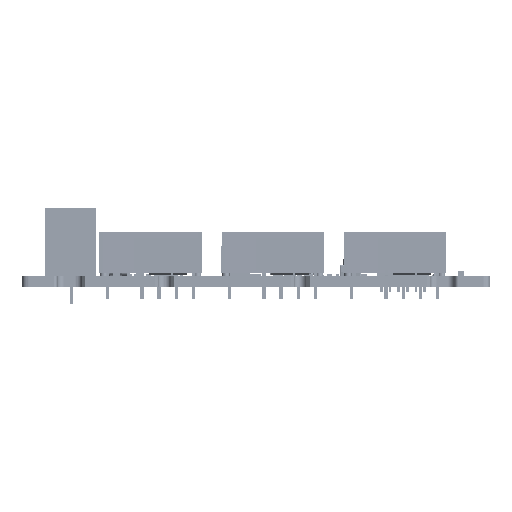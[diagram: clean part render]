
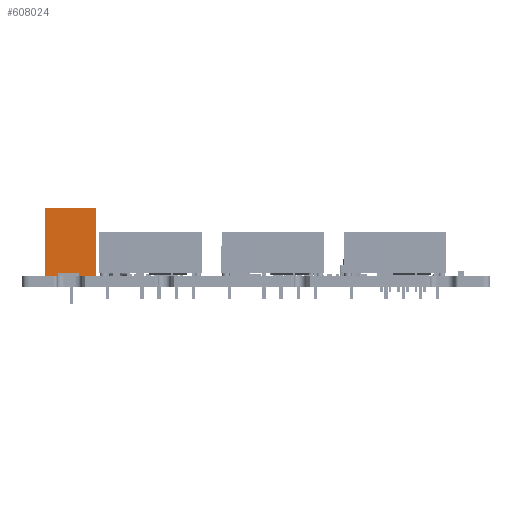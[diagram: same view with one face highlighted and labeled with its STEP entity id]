
A CAD part, left-side view. The second image highlights one B-rep face of the part: STEP entity #608024.
In plain terms, the highlighted planar face has unit normal (-1, 0, 0).
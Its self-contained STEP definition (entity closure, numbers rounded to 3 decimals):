
#608024 = ADVANCED_FACE('',(#608025),#608059,.F.);
#608025 = FACE_BOUND('',#608026,.T.);
#608026 = EDGE_LOOP('',(#608027,#608037,#608045,#608053));
#608027 = ORIENTED_EDGE('',*,*,#608028,.T.);
#608028 = EDGE_CURVE('',#608029,#608031,#608033,.T.);
#608029 = VERTEX_POINT('',#608030);
#608030 = CARTESIAN_POINT('',(67.06,65.59,
    0.));
#608031 = VERTEX_POINT('',#608032);
#608032 = CARTESIAN_POINT('',(67.06,58.09,
    0.));
#608033 = LINE('',#608034,#608035);
#608034 = CARTESIAN_POINT('',(67.06,65.59,
    0.));
#608035 = VECTOR('',#608036,1.);
#608036 = DIRECTION('',(0.,-1.,0.));
#608037 = ORIENTED_EDGE('',*,*,#608038,.F.);
#608038 = EDGE_CURVE('',#608039,#608031,#608041,.T.);
#608039 = VERTEX_POINT('',#608040);
#608040 = CARTESIAN_POINT('',(67.06,58.09,
    10.1));
#608041 = LINE('',#608042,#608043);
#608042 = CARTESIAN_POINT('',(67.06,58.09,
    10.1));
#608043 = VECTOR('',#608044,1.);
#608044 = DIRECTION('',(0.,0.,-1.));
#608045 = ORIENTED_EDGE('',*,*,#608046,.F.);
#608046 = EDGE_CURVE('',#608047,#608039,#608049,.T.);
#608047 = VERTEX_POINT('',#608048);
#608048 = CARTESIAN_POINT('',(67.06,65.59,
    10.1));
#608049 = LINE('',#608050,#608051);
#608050 = CARTESIAN_POINT('',(67.06,65.59,
    10.1));
#608051 = VECTOR('',#608052,1.);
#608052 = DIRECTION('',(0.,-1.,0.));
#608053 = ORIENTED_EDGE('',*,*,#608054,.T.);
#608054 = EDGE_CURVE('',#608047,#608029,#608055,.T.);
#608055 = LINE('',#608056,#608057);
#608056 = CARTESIAN_POINT('',(67.06,65.59,
    10.1));
#608057 = VECTOR('',#608058,1.);
#608058 = DIRECTION('',(0.,0.,-1.));
#608059 = PLANE('',#608060);
#608060 = AXIS2_PLACEMENT_3D('',#608061,#608062,#608063);
#608061 = CARTESIAN_POINT('',(67.06,65.59,
    10.1));
#608062 = DIRECTION('',(1.,0.,0.));
#608063 = DIRECTION('',(0.,1.,0.));
